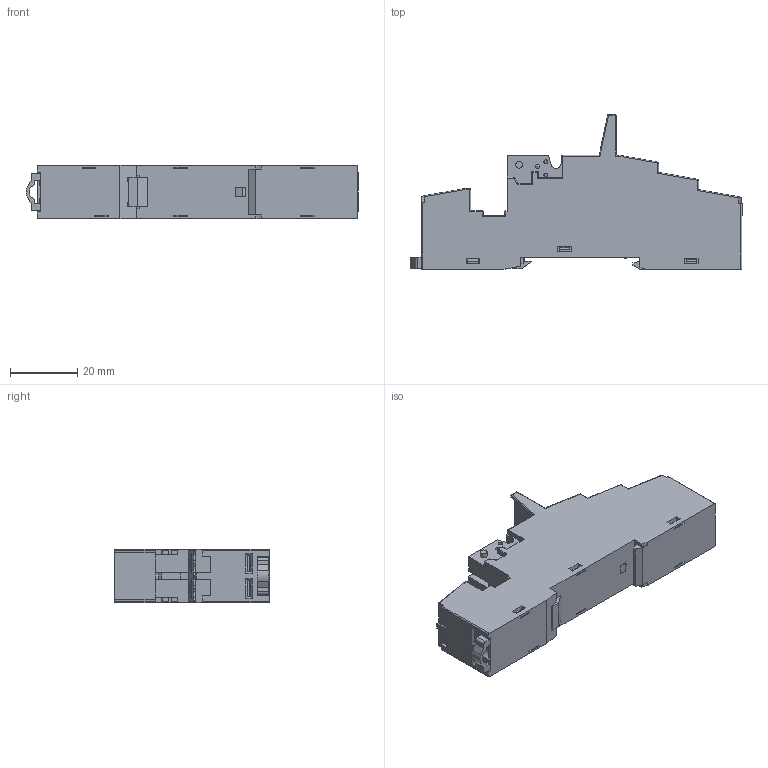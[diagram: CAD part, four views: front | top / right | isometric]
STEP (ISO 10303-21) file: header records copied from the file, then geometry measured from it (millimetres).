
FILE_DESCRIPTION(/* description */ (''),/* implementation_level */ '2;1');
FILE_NAME(/* name */ 'C:\Desktop\FIERA\97.P2\97.P2.stp',/* time_stamp */ '2015-03-06T11:47:00+01:00',/* author */ ('marco'),/* organization */ (''),/* preprocessor_version */ 'ST-DEVELOPER v15.6',/* originating_system */ 'Autodesk Inventor 2015',/* authorisation */ '');
FILE_SCHEMA (('AUTOMOTIVE_DESIGN { 1 0 10303 214 3 1 1 }'));
Products named in the file (1): 97.P2
Bounding box: 98.9 x 46 x 15.8 mm (x, y, z)
Volume: 35321.6 mm3; surface area: 19332 mm2
Topology: 1 solids, 1 shells, 2432 faces, 6533 edges, 4147 vertices
Faces by surface type: plane 1780, cylinder 466, torus 85, cone 69, bspline 18, sphere 14
Full cylindrical faces by diameter (mm): 1.2 x4, 2 x2, 2.1 x8
Entity records: 77914 total; most frequent: CARTESIAN_POINT 14097, ORIENTED_EDGE 13014, DIRECTION 12261, EDGE_CURVE 6505, LINE 5351, VECTOR 5351, VERTEX_POINT 4141, AXIS2_PLACEMENT_3D 3455
